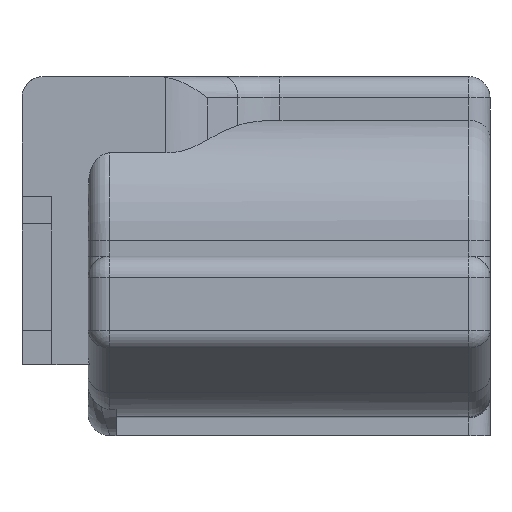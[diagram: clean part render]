
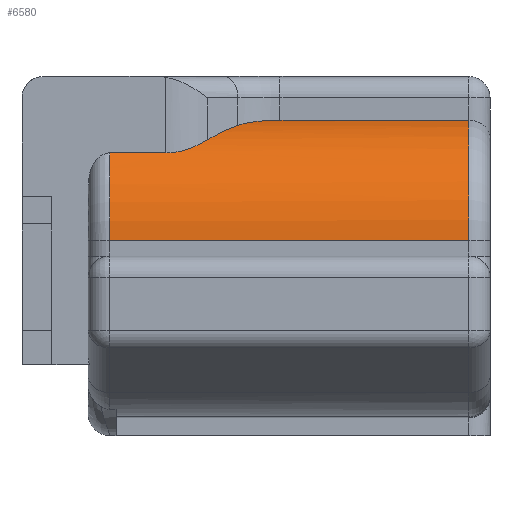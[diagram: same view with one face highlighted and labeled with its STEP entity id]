
A CAD part, front view. The second image highlights one B-rep face of the part: STEP entity #6580.
In plain terms, the highlighted cylindrical face has radius 5.8 mm (diameter 11.6 mm), a partial arc.
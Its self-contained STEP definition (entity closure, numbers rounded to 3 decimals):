
#4986=CARTESIAN_POINT('Vertex',(-11.798,-2.638,7.114)) ;
#4990=CARTESIAN_POINT('Control Point',(-9.827,-1.9,7.35)) ;
#4991=CARTESIAN_POINT('Control Point',(-10.369,-1.9,7.35)) ;
#4992=CARTESIAN_POINT('Control Point',(-10.912,-2.03,7.319)) ;
#4993=CARTESIAN_POINT('Control Point',(-11.402,-2.293,7.25)) ;
#4994=CARTESIAN_POINT('Control Point',(-11.798,-2.638,7.114)) ;
#4995=CARTESIAN_POINT('Vertex',(-9.827,-1.9,7.35)) ;
#5021=CARTESIAN_POINT('Vertex',(-13.204,-3.862,6.448)) ;
#5025=CARTESIAN_POINT('Control Point',(-13.204,-3.862,6.448)) ;
#5026=CARTESIAN_POINT('Control Point',(-12.944,-3.636,6.609)) ;
#5027=CARTESIAN_POINT('Control Point',(-12.678,-3.404,6.753)) ;
#5028=CARTESIAN_POINT('Control Point',(-12.407,-3.169,6.882)) ;
#5029=CARTESIAN_POINT('Control Point',(-12.122,-2.92,7.)) ;
#5030=CARTESIAN_POINT('Control Point',(-11.833,-2.668,7.101)) ;
#5031=CARTESIAN_POINT('Control Point',(-11.821,-2.658,7.105)) ;
#5032=CARTESIAN_POINT('Control Point',(-11.809,-2.648,7.11)) ;
#5033=CARTESIAN_POINT('Control Point',(-11.798,-2.638,7.114)) ;
#5058=CARTESIAN_POINT('Vertex',(-15.174,-4.6,5.824)) ;
#5062=CARTESIAN_POINT('Control Point',(-13.204,-3.862,6.448)) ;
#5063=CARTESIAN_POINT('Control Point',(-13.512,-4.131,6.257)) ;
#5064=CARTESIAN_POINT('Control Point',(-13.869,-4.348,6.074)) ;
#5065=CARTESIAN_POINT('Control Point',(-14.27,-4.514,5.911)) ;
#5066=CARTESIAN_POINT('Control Point',(-14.723,-4.6,5.824)) ;
#5067=CARTESIAN_POINT('Control Point',(-15.174,-4.6,5.824)) ;
#5371=CARTESIAN_POINT('Vertex',(-17.8,-6.3,1.722)) ;
#5460=CARTESIAN_POINT('Axis2P3D Location',(-17.8,-0.5,1.722)) ;
#5464=CARTESIAN_POINT('Vertex',(-17.8,-4.6,5.824)) ;
#5888=CARTESIAN_POINT('Line Origine',(-5.414,-1.9,7.35)) ;
#5892=CARTESIAN_POINT('Vertex',(-1.,-1.9,7.35)) ;
#6048=CARTESIAN_POINT('Line Origine',(-16.487,-4.6,5.824)) ;
#6407=CARTESIAN_POINT('Line Origine',(-9.4,-6.3,1.722)) ;
#6411=CARTESIAN_POINT('Vertex',(-1.,-6.3,1.722)) ;
#6560=CARTESIAN_POINT('Axis2P3D Location',(-9.4,-0.5,1.722)) ;
#6565=CARTESIAN_POINT('Axis2P3D Location',(-1.,-0.5,1.722)) ;
#5461=DIRECTION('Axis2P3D Direction',(1.,-0.,0.)) ;
#5889=DIRECTION('Vector Direction',(-1.,0.,0.)) ;
#6049=DIRECTION('Vector Direction',(-1.,0.,0.)) ;
#6408=DIRECTION('Vector Direction',(-1.,0.,0.)) ;
#6561=DIRECTION('Axis2P3D Direction',(1.,0.,0.)) ;
#6562=DIRECTION('Axis2P3D XDirection',(0.,-0.045,0.999)) ;
#6566=DIRECTION('Axis2P3D Direction',(1.,0.,0.)) ;
#5462=AXIS2_PLACEMENT_3D('Circle Axis2P3D',#5460,#5461,$) ;
#6563=AXIS2_PLACEMENT_3D('Cylinder Axis2P3D',#6560,#6561,#6562) ;
#6567=AXIS2_PLACEMENT_3D('Circle Axis2P3D',#6565,#6566,$) ;
#6571=ORIENTED_EDGE('',*,*,#5894,.T.) ;
#6572=ORIENTED_EDGE('',*,*,#4997,.T.) ;
#6573=ORIENTED_EDGE('',*,*,#5034,.F.) ;
#6574=ORIENTED_EDGE('',*,*,#5068,.F.) ;
#6575=ORIENTED_EDGE('',*,*,#6052,.T.) ;
#6576=ORIENTED_EDGE('',*,*,#5466,.T.) ;
#6577=ORIENTED_EDGE('',*,*,#6413,.F.) ;
#6578=ORIENTED_EDGE('',*,*,#6569,.T.) ;
#5890=VECTOR('Line Direction',#5889,1.) ;
#6050=VECTOR('Line Direction',#6049,1.) ;
#6409=VECTOR('Line Direction',#6408,1.) ;
#6580=ADVANCED_FACE('\X2\FF8AFF9FFF70FF82\X0\ \X2\FF8EFF9EFF83FF9EFF68FF70\X0\',(#6579),#6564,.T.) ;
#4989=B_SPLINE_CURVE_WITH_KNOTS('',4,(#4990,#4991,#4992,#4993,#4994),.UNSPECIFIED.,.F.,.U.,(5,5),(0.,3.066),.UNSPECIFIED.) ;
#5024=B_SPLINE_CURVE_WITH_KNOTS('',5,(#5025,#5026,#5027,#5028,#5029,#5030,#5031,#5032,#5033),.UNSPECIFIED.,.F.,.U.,(6,3,6),(1.818,4.508,4.622),.UNSPECIFIED.) ;
#5061=B_SPLINE_CURVE_WITH_KNOTS('',5,(#5062,#5063,#5064,#5065,#5066,#5067),.UNSPECIFIED.,.F.,.U.,(6,6),(0.,3.192),.UNSPECIFIED.) ;
#5463=CIRCLE('generated circle',#5462,5.8) ;
#6568=CIRCLE('generated circle',#6567,5.8) ;
#6564=CYLINDRICAL_SURFACE('generated cylinder',#6563,5.8) ;
#4997=EDGE_CURVE('',#4996,#4987,#4989,.T.) ;
#5034=EDGE_CURVE('',#5022,#4987,#5024,.T.) ;
#5068=EDGE_CURVE('',#5059,#5022,#5061,.F.) ;
#5466=EDGE_CURVE('',#5465,#5372,#5463,.T.) ;
#5894=EDGE_CURVE('',#5893,#4996,#5891,.T.) ;
#6052=EDGE_CURVE('',#5059,#5465,#6051,.T.) ;
#6413=EDGE_CURVE('',#6412,#5372,#6410,.T.) ;
#6569=EDGE_CURVE('',#6412,#5893,#6568,.F.) ;
#6570=EDGE_LOOP('',(#6571,#6572,#6573,#6574,#6575,#6576,#6577,#6578)) ;
#6579=FACE_OUTER_BOUND('',#6570,.T.) ;
#5891=LINE('Line',#5888,#5890) ;
#6051=LINE('Line',#6048,#6050) ;
#6410=LINE('Line',#6407,#6409) ;
#4987=VERTEX_POINT('',#4986) ;
#4996=VERTEX_POINT('',#4995) ;
#5022=VERTEX_POINT('',#5021) ;
#5059=VERTEX_POINT('',#5058) ;
#5372=VERTEX_POINT('',#5371) ;
#5465=VERTEX_POINT('',#5464) ;
#5893=VERTEX_POINT('',#5892) ;
#6412=VERTEX_POINT('',#6411) ;
